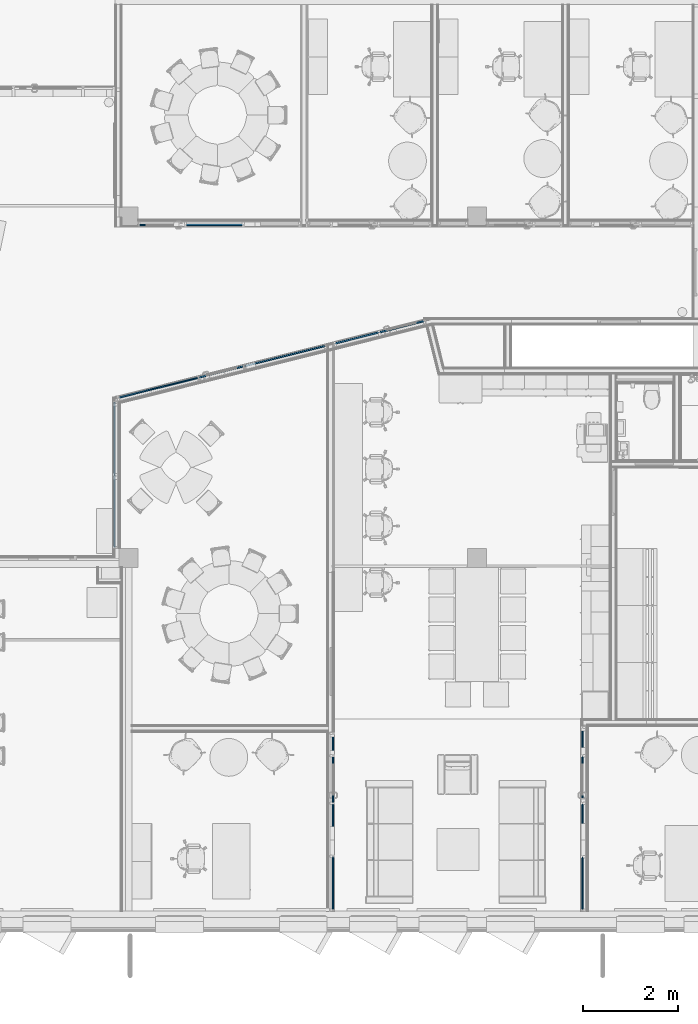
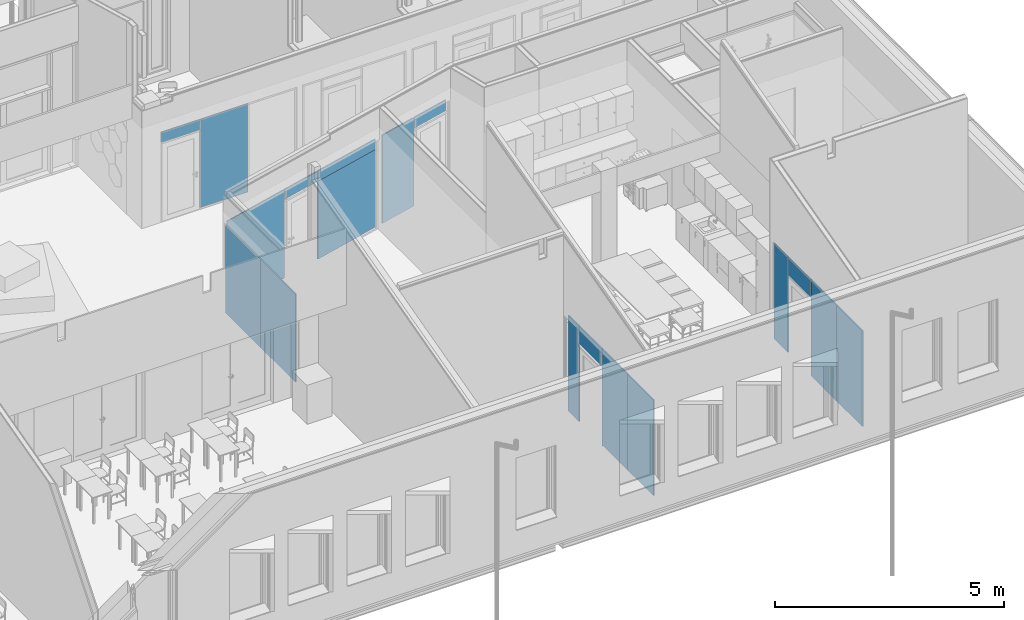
# One storey, part 39 of 153: 18 plates, 6 elements without a shape of their own.
"""IFC2X3 building model written with IfcOpenShell, lengths in millimetres."""

import ifcopenshell
import ifcopenshell.guid

model = None  # the IFC model being written
_history = None  # IfcOwnerHistory: only IFC2X3 demands one
_inside = {}  # id of a spatial element -> (the spatial element, [elements in it])
_under = {}  # id of a project, library or spatial element -> (it, [spatial elements below it])
_declared = {}  # id of a project -> (the project, [libraries it declares])
_typed = {}  # id of a type object -> (the type object, [elements of that type])
_made_of = {}  # id of a material, layer set ... -> (it, [elements and type objects made of it])


def new_model(schema):
    """Start an empty IFC model of exactly this schema.

    Asked for "IFC4X3", IfcOpenShell would pick the latest addendum, in which some entities
    have other attributes; the version numbers below select the first issue.
    IFC2X3 requires an IfcOwnerHistory on every rooted entity: one is made here for all.
    """
    global model, _history
    if schema == "IFC4X3":
        model = ifcopenshell.file(schema_version=(4, 3, 0, 0))
    else:
        model = ifcopenshell.file(schema=schema)
    _inside.clear()
    _under.clear()
    _declared.clear()
    _typed.clear()
    _made_of.clear()
    _history = None
    if model.schema == "IFC2X3":
        org = make("IfcOrganization", Name="unknown")
        user = make(
            "IfcPersonAndOrganization",
            ThePerson=make("IfcPerson", FamilyName="unknown"),
            TheOrganization=org,
        )
        app = make(
            "IfcApplication",
            ApplicationDeveloper=org,
            Version="unknown",
            ApplicationFullName="unknown",
            ApplicationIdentifier="unknown",
        )
        _history = make(
            "IfcOwnerHistory",
            OwningUser=user,
            OwningApplication=app,
            ChangeAction="ADDED",
            CreationDate=0,
        )
    return model


def make(cls, **values):
    """One entity of the class cls with the attributes given. An attribute that is None is left unset."""
    return model.create_entity(
        cls, **{name: value for name, value in values.items() if value is not None}
    )


def entity(cls, *values):
    """Any entity or typed value of the class cls, its attributes in the order of the schema. None: left unset."""
    e = model.create_entity(cls)
    for i, value in enumerate(values):
        if value is not None:
            e[i] = value
    return e


def rooted(cls, **values):
    """An entity with a GlobalId (a new one), such as an element, a storey or a relation."""
    return make(cls, GlobalId=ifcopenshell.guid.new(), OwnerHistory=_history, **values)


def si_unit(unit_type, name, prefix=None):
    """IfcSIUnit, for example si_unit("LENGTHUNIT", "METRE", prefix="MILLI")."""
    return make("IfcSIUnit", UnitType=unit_type, Prefix=prefix, Name=name)


def converted_unit(unit_type, name, factor, base, dimensions=None, offset=None):
    """IfcConversionBasedUnit, such as the inch: factor (a typed value) times the base unit."""
    return make(
        "IfcConversionBasedUnit"
        if offset is None
        else "IfcConversionBasedUnitWithOffset",
        ConversionOffset=offset,
        Dimensions=None
        if dimensions is None
        else entity("IfcDimensionalExponents", *dimensions),
        UnitType=unit_type,
        Name=name,
        ConversionFactor=make(
            "IfcMeasureWithUnit", ValueComponent=factor, UnitComponent=base
        ),
    )


def derived_unit(unit_type, elements):
    """IfcDerivedUnit: a product of units, each with its exponent."""
    return make(
        "IfcDerivedUnit",
        Elements=[
            make("IfcDerivedUnitElement", Unit=unit, Exponent=power)
            for unit, power in elements
        ],
        UnitType=unit_type,
    )


def money_unit(currency):
    """IfcMonetaryUnit."""
    return make("IfcMonetaryUnit", Currency=currency)


def assignment(units):
    """IfcUnitAssignment: the units of a project."""
    return None if units is None else make("IfcUnitAssignment", Units=units)


def point(xyz):
    """IfcCartesianPoint."""
    return None if xyz is None else make("IfcCartesianPoint", Coordinates=xyz)


def direction(xyz):
    """IfcDirection."""
    return None if xyz is None else make("IfcDirection", DirectionRatios=xyz)


def frame(location, z_axis=None, x_axis=None):
    """IfcAxis2Placement3D, a coordinate frame: its origin and axes. An axis left out is left unset."""
    return make(
        "IfcAxis2Placement3D",
        Location=point(location),
        Axis=direction(z_axis),
        RefDirection=direction(x_axis),
    )


def origin_with_axes():
    """The frame at (0, 0, 0) with the z axis (0, 0, 1) and the x axis (1, 0, 0) written out."""
    return frame((0.0, 0.0, 0.0), z_axis=(0.0, 0.0, 1.0), x_axis=(1.0, 0.0, 0.0))


def place(relative_to, where):
    """IfcLocalPlacement: puts the frame where relative to a parent placement (None: the world)."""
    return make(
        "IfcLocalPlacement", PlacementRelTo=relative_to, RelativePlacement=where
    )


def context(
    kind, dimensions, precision=None, world=None, true_north=None, identifier=None
):
    """IfcGeometricRepresentationContext, for example the 3D "Model" context."""
    return make(
        "IfcGeometricRepresentationContext",
        ContextIdentifier=identifier,
        ContextType=kind,
        CoordinateSpaceDimension=dimensions,
        Precision=precision,
        WorldCoordinateSystem=world,
        TrueNorth=true_north,
    )


def subcontext(parent, identifier, kind, view, scale=None):
    """IfcGeometricRepresentationSubContext, for example "Body" below "Model"."""
    return make(
        "IfcGeometricRepresentationSubContext",
        ContextIdentifier=identifier,
        ContextType=kind,
        ParentContext=parent,
        TargetScale=scale,
        TargetView=view,
    )


def project(units=None, contexts=None):
    """IfcProject with its units and contexts."""
    return rooted(
        "IfcProject",
        Name="project",
        RepresentationContexts=contexts,
        UnitsInContext=assignment(units),
    )


def spatial(cls, under=None, at=None, **own):
    """A site, building, storey or space (cls), placed at a placement, below another one or the project."""
    s = rooted(cls, ObjectPlacement=at, **own)
    if under is not None:
        _under.setdefault(under.id(), (under, []))[1].append(s)
    return s


def faces_of(points, faces, orient=None, outer=None):
    """IfcFace entities. A face is a list of loops; a loop is a list of indices into points, from 0.

    orient and outer hold one flag for each loop. By default every Orientation is true, the
    first loop of a face is its IfcFaceOuterBound and the others are IfcFaceBound.
    """
    made = []
    for i, loops in enumerate(faces):
        bounds = []
        for j, loop in enumerate(loops):
            is_outer = j == 0 if outer is None else outer[i][j]
            bounds.append(
                make(
                    "IfcFaceOuterBound" if is_outer else "IfcFaceBound",
                    Bound=make("IfcPolyLoop", Polygon=[points[k] for k in loop]),
                    Orientation=True if orient is None else orient[i][j],
                )
            )
        made.append(make("IfcFace", Bounds=bounds))
    return made


def faceted_brep(points, faces, orient=None, outer=None, voids=None):
    """IfcFacetedBrep: a solid bounded by flat faces; with voids (closed shells), ...WithVoids."""
    shared = [point(p) for p in points]
    hull = make("IfcClosedShell", CfsFaces=faces_of(shared, faces, orient, outer))
    if voids is None:
        return make("IfcFacetedBrep", Outer=hull)
    return make(
        "IfcFacetedBrepWithVoids",
        Outer=hull,
        Voids=[
            make(cls, CfsFaces=faces_of(shared, fs, o, b)) for cls, fs, o, b in voids
        ],
    )


def shape(context_of_items, identifier, shape_type, items):
    """IfcShapeRepresentation: the items that make up one representation, for example the "Body"."""
    return make(
        "IfcShapeRepresentation",
        ContextOfItems=context_of_items,
        RepresentationIdentifier=identifier,
        RepresentationType=shape_type,
        Items=items,
    )


def material(Name=None, Category=None):
    """IfcMaterial."""
    return make("IfcMaterial", Name=Name, Category=Category)


def made_of(thing, what):
    """Note that an element or type object is made of a material, layer set ...; save() writes the relation."""
    if what is not None:
        _made_of.setdefault(what.id(), (what, []))[1].append(thing)
    return thing


def type_object(cls, material=None, **own):
    """A type object (cls), such as IfcWallType, which elements share."""
    return made_of(rooted(cls, **own), material)


def element(
    cls,
    number,
    at=None,
    inside=None,
    cuts=None,
    type_object=None,
    material=None,
    context=None,
    identifier="Body",
    shape_type=None,
    held_by="IfcProductDefinitionShape",
    body=None,
    shapes=None,
    **own,
):
    """One element of the class cls, such as IfcWall. Its Tag is "e" and its number.

    at: its placement. inside: the storey or other place that contains it. cuts: it is an
    opening in that element (IfcRelVoidsElement). A single representation is given by context,
    identifier, shape_type and body (its items); several are given by shapes. held_by: the class
    of the entity that holds the representations. save() writes the other relations.
    """
    e = rooted(cls, Tag="e%d" % number, ObjectPlacement=at, **own)
    if body is not None:
        shapes = [shape(context, identifier, shape_type, body)]
    if shapes is not None:
        e.Representation = make(held_by, Representations=shapes)
    if inside is not None:
        _inside.setdefault(inside.id(), (inside, []))[1].append(e)
    if cuts is not None:
        rooted(
            "IfcRelVoidsElement", RelatingBuildingElement=cuts, RelatedOpeningElement=e
        )
    if type_object is not None:
        _typed.setdefault(type_object.id(), (type_object, []))[1].append(e)
    return made_of(e, material)


def aggregate(whole, parts):
    """IfcRelAggregates: a whole, such as a stair, and the parts it consists of."""
    return rooted("IfcRelAggregates", RelatingObject=whole, RelatedObjects=parts)


def save(model, path):
    """Write the relations noted so far, then the file.

    IfcRelAggregates (storeys below a building ...), IfcRelContainedInSpatialStructure (elements
    in a storey), IfcRelDefinesByType, IfcRelAssociatesMaterial and IfcRelDeclares: one each for
    every whole, place, type object, material and project.
    """
    for whole, parts in _under.values():
        aggregate(whole, parts)
    for where, things in _inside.values():
        rooted(
            "IfcRelContainedInSpatialStructure",
            RelatedElements=things,
            RelatingStructure=where,
        )
    for kind, things in _typed.values():
        rooted("IfcRelDefinesByType", RelatedObjects=things, RelatingType=kind)
    for what, things in _made_of.values():
        rooted("IfcRelAssociatesMaterial", RelatedObjects=things, RelatingMaterial=what)
    for by, libraries in _declared.values():
        rooted("IfcRelDeclares", RelatingContext=by, RelatedDefinitions=libraries)
    model.write(path)


model = new_model("IFC2X3")

# Units and contexts
model_context = context("Model", 3, precision=0.01, world=origin_with_axes(), true_north=direction((0.0, 1.0)))
body_context = subcontext(model_context, "Body", "Model", "MODEL_VIEW")
ifc_project = project(units=[si_unit("LENGTHUNIT", "METRE", prefix="MILLI"), si_unit("AREAUNIT", "SQUARE_METRE"), si_unit("VOLUMEUNIT", "CUBIC_METRE"), converted_unit("PLANEANGLEUNIT", "DEGREE", entity("IfcPlaneAngleMeasure", 0.0174532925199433), si_unit("PLANEANGLEUNIT", "RADIAN"), dimensions=[0, 0, 0, 0, 0, 0, 0]), money_unit("EUR"), converted_unit("TIMEUNIT", "Year", entity("IfcTimeMeasure", 31557600.0), si_unit("TIMEUNIT", "SECOND"), dimensions=[0, 0, 1, 0, 0, 0, 0]), si_unit("MASSUNIT", "GRAM", prefix="KILO"), si_unit("THERMODYNAMICTEMPERATUREUNIT", "DEGREE_CELSIUS"), si_unit("LUMINOUSINTENSITYUNIT", "LUMEN"), si_unit("ENERGYUNIT", "JOULE", prefix="MEGA"), derived_unit("THERMALCONDUCTANCEUNIT", [(si_unit("POWERUNIT", "WATT"), 1), (si_unit("LENGTHUNIT", "METRE"), -1), (si_unit("THERMODYNAMICTEMPERATUREUNIT", "KELVIN"), -1)]), derived_unit("SPECIFICHEATCAPACITYUNIT", [(si_unit("ENERGYUNIT", "JOULE"), 1), (si_unit("MASSUNIT", "GRAM", prefix="KILO"), -1), (si_unit("THERMODYNAMICTEMPERATUREUNIT", "KELVIN"), -1)]), derived_unit("MASSDENSITYUNIT", [(si_unit("MASSUNIT", "GRAM", prefix="KILO"), 1), (si_unit("VOLUMEUNIT", "CUBIC_METRE"), -1)])], contexts=[model_context])

# Site, building, storey
site_placement = place(None, frame((0.0, 0.0, 8650.0), z_axis=(0.0, 0.0, 1.0), x_axis=(1.0, 0.0, 0.0)))
site = spatial("IfcSite", under=ifc_project, at=site_placement, Name="43301:001:0844", CompositionType="ELEMENT")
building_placement = place(site_placement, origin_with_axes())
building = spatial("IfcBuilding", under=site, at=building_placement, Name="Kuressaare Ametikooli tuulikute mehaanikute õppekorpus", CompositionType="ELEMENT")
storey_placement = place(building_placement, frame((0.0, 0.0, 4100.0), z_axis=(0.0, 0.0, 1.0), x_axis=(1.0, 0.0, 0.0)))
storey = spatial("IfcBuildingStorey", under=building, at=storey_placement, Name="2.korrus", CompositionType="ELEMENT", Elevation=4100.0)

# Curtain wall, plates
curtain_wall_type = type_object("IfcCurtainWallType", Name="Curtain Wall Type", PredefinedType="NOTDEFINED")
curtain_wall_1_placement = place(storey_placement, frame((122879.3962682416, 12626.24529387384, 0.0), z_axis=(0.0, 0.0, 1.0), x_axis=(1.0, 0.0, 0.0)))
curtain_wall_1 = element("IfcCurtainWall", 1, at=curtain_wall_1_placement, inside=storey, type_object=curtain_wall_type, Name="PKF-3")
ifc_material = material(Name="Klaas")
plate_type_1 = type_object("IfcPlateType", Name="Main Panel 106 x 175 x 30", PredefinedType="NOTDEFINED")
plate_1_placement = place(curtain_wall_1_placement, frame((0.0, 0.0, 1572.727274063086), z_axis=(0.0, 0.0, 1.0), x_axis=(0.0, -1.0, 0.0)))
plate_1 = element("IfcPlate", 2, at=plate_1_placement, type_object=plate_type_1, material=ifc_material, context=body_context, shape_type="Brep", body=[
    faceted_brep([(-246.6906654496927, -14.99999999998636, 1002.272722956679), (-169.1127710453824, -14.99999999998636, 1002.272722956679), (-169.1127710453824, 15.00000000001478, 1002.272722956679), (-246.6906654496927, 15.00000000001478, 1002.272722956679), (-246.690587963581, -14.99999999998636, 827.2727408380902), (-246.690587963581, -14.99999999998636, -1547.72727108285), (-169.1127710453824, -14.99999999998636, -1547.72727108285), (117.9358872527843, -14.99999999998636, -1547.72727108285), (224.3563596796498, -14.99999999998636, -1547.72727108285), (224.3563984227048, -14.99999999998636, 527.2727438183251), (224.3563984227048, -14.99999999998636, 827.2727408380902), (224.3563984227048, -14.99999999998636, 1002.272722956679), (117.9358872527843, -14.99999999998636, 1002.272722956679), (117.9358872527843, 15.00000000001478, 1002.272722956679), (224.3563984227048, 15.00000000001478, 1002.272722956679), (224.3563984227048, 15.00000000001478, 827.2727408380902), (224.3563984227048, 15.00000000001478, 527.2727438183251), (224.3563596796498, 15.00000000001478, -1547.72727108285), (117.9358872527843, 15.00000000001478, -1547.72727108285), (-169.1127710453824, 15.00000000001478, -1547.72727108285), (-246.690587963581, 15.00000000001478, -1547.72727108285), (-246.690587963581, 15.00000000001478, 827.2727408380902)], [[[0, 1, 2, 3]], [[0, 4, 5, 6, 7, 8, 9, 10, 11, 12, 1]], [[1, 12, 13, 2]], [[3, 2, 13, 14, 15, 16, 17, 18, 19, 20, 21]], [[4, 0, 3, 21]], [[5, 4, 21, 20]], [[6, 5, 20, 19]], [[7, 6, 19, 18]], [[8, 7, 18, 17]], [[9, 8, 17, 16]], [[10, 9, 16, 15]], [[11, 10, 15, 14]], [[12, 11, 14, 13]]]),
])
plate_type_2 = type_object("IfcPlateType", Name="Main Panel 336 x 175 x 30", PredefinedType="NOTDEFINED")
plate_2_placement = place(curtain_wall_1_placement, frame((0.0, -1720.856543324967, 1441.666664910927), z_axis=(0.0, 0.0, 1.0), x_axis=(0.0, -1.0, 0.0)))
plate_2 = element("IfcPlate", 3, at=plate_2_placement, type_object=plate_type_2, material=ifc_material, Name="PKU10,dB", context=body_context, shape_type="Brep", body=[
    faceted_brep([(-486.498398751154, -14.99999999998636, 1133.333332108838), (-2.920668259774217, -14.99999999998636, 1133.333332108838), (-2.920668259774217, 15.00000000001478, 1133.333332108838), (-486.498398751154, 15.00000000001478, 1133.333332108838), (-486.498398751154, -14.99999999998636, 958.3333499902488), (-486.498398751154, -14.99999999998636, 658.3333142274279), (-486.498398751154, -14.99999999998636, -1441.666664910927), (-471.4984434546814, -14.99999999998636, -1441.666664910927), (-471.4984434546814, -14.99999999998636, -1416.666661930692), (-2.920668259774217, -14.99999999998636, -1416.666661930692), (284.1279900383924, -14.99999999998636, -1416.666661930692), (620.0255981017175, -14.99999999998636, -1416.666661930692), (620.0258693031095, -14.99999999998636, 958.3333499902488), (620.0259080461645, -14.99999999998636, 1133.333332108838), (284.1279900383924, -14.99999999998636, 1133.333332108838), (284.1279900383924, 15.00000000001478, 1133.333332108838), (620.0259080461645, 15.00000000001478, 1133.333332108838), (620.0258693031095, 15.00000000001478, 958.3333499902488), (620.0255981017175, 15.00000000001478, -1416.666661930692), (284.1279900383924, 15.00000000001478, -1416.666661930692), (-2.920668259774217, 15.00000000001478, -1416.666661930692), (-471.4984434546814, 15.00000000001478, -1416.666661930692), (-471.4984434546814, 15.00000000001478, -1441.666664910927), (-486.498398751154, 15.00000000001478, -1441.666664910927), (-486.498398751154, 15.00000000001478, 658.3333142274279), (-486.498398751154, 15.00000000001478, 958.3333499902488)], [[[0, 1, 2, 3]], [[0, 4, 5, 6, 7, 8, 9, 10, 11, 12, 13, 14, 1]], [[1, 14, 15, 2]], [[3, 2, 15, 16, 17, 18, 19, 20, 21, 22, 23, 24, 25]], [[4, 0, 3, 25]], [[5, 4, 25, 24]], [[6, 5, 24, 23]], [[7, 6, 23, 22]], [[8, 7, 22, 21]], [[9, 8, 21, 20]], [[10, 9, 20, 19]], [[11, 10, 19, 18]], [[12, 11, 18, 17]], [[13, 12, 17, 16]], [[14, 13, 16, 15]]]),
])
plate_type_3 = type_object("IfcPlateType", Name="Main Panel 990 x 175 x 30", PredefinedType="NOTDEFINED")
plate_3_placement = place(curtain_wall_1_placement, frame((0.0, -729.3572609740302, 2366.666665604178), z_axis=(0.0, 0.0, 1.0), x_axis=(0.0, -1.0, 0.0)))
plate_3 = element("IfcPlate", 4, at=plate_3_placement, type_object=plate_type_3, material=ifc_material, context=body_context, shape_type="Brep", body=[
    faceted_brep([(-495.0008700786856, -14.99999999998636, 208.3333358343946), (495.0008998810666, -14.99999999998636, 208.3333358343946), (495.0008998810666, 15.00000000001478, 208.3333358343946), (-495.0008700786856, 15.00000000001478, 208.3333358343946), (-495.0008700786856, -14.99999999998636, 33.33333852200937), (-495.0008849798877, -14.99999999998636, -261.6666480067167), (495.0008700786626, -14.99999999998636, -261.6666927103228), (495.0008700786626, -14.99999999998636, 33.33333852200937), (495.0008700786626, 15.00000000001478, 33.33333852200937), (495.0008700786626, 15.00000000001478, -261.6666927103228), (-495.0008849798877, 15.00000000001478, -261.6666480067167), (-495.0008700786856, 15.00000000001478, 33.33333852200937)], [[[0, 1, 2, 3]], [[0, 4, 5, 6, 7, 1]], [[1, 7, 8, 2]], [[3, 2, 8, 9, 10, 11]], [[4, 0, 3, 11]], [[5, 4, 11, 10]], [[6, 5, 10, 9]], [[7, 6, 9, 8]]]),
])
plate_type_4 = type_object("IfcPlateType", Name="Main Panel 1127 x 175 x 30", PredefinedType="NOTDEFINED")
plate_4_placement = place(curtain_wall_1_placement, frame((0.0, -2924.144530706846, 1666.666666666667), z_axis=(0.0, 0.0, 1.0), x_axis=(0.0, -1.0, 0.0)))
plate_4 = element("IfcPlate", 5, at=plate_4_placement, type_object=plate_type_4, material=ifc_material, Name="PKU10,dB", context=body_context, shape_type="Brep", body=[
    faceted_brep([(-573.2620870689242, -14.99999999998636, 908.3333303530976), (553.2621988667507, -14.99999999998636, 908.3333303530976), (553.2621988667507, 15.00000000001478, 908.3333303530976), (-573.2620870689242, 15.00000000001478, 908.3333303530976), (-573.2621258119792, -14.99999999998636, 733.3333482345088), (-573.262397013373, -14.99999999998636, -1641.666663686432), (553.2621988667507, -14.99999999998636, -1641.666663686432), (553.2621988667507, -14.99999999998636, 733.3333482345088), (553.2621988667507, 15.00000000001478, 733.3333482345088), (553.2621988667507, 15.00000000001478, -1641.666663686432), (-573.262397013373, 15.00000000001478, -1641.666663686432), (-573.2621258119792, 15.00000000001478, 733.3333482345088)], [[[0, 1, 2, 3]], [[0, 4, 5, 6, 7, 1]], [[1, 7, 8, 2]], [[3, 2, 8, 9, 10, 11]], [[4, 0, 3, 11]], [[5, 4, 11, 10]], [[6, 5, 10, 9]], [[7, 6, 9, 8]]]),
])
aggregate(curtain_wall_1, [plate_1, plate_2, plate_3, plate_4])

curtain_wall_2_placement = place(storey_placement, frame((128142.9907946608, 12695.39546179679, 0.0), z_axis=(0.0, 0.0, 1.0), x_axis=(1.0, 0.0, 0.0)))
curtain_wall_2 = element("IfcCurtainWall", 6, at=curtain_wall_2_placement, inside=storey, type_object=curtain_wall_type, Name="PKF-4")
plate_type_5 = type_object("IfcPlateType", Name="Main Panel 351 x 15 x 30", PredefinedType="NOTDEFINED")
plate_5_placement = place(curtain_wall_2_placement, frame((0.0, -1830.360836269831, 1724.615386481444), z_axis=(0.0, 0.0, 1.0), x_axis=(0.0, -1.0, 0.0)))
plate_5 = element("IfcPlate", 7, at=plate_5_placement, type_object=plate_type_5, material=ifc_material, Name="PKU10,dB", context=body_context, shape_type="Brep", body=[
    faceted_brep([(-531.0398533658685, 15.00000000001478, 850.3846105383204), (-531.0398533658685, -14.99999999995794, 850.3846105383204), (-106.330259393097, -14.99999999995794, 850.3846105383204), (-106.330259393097, 15.00000000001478, 850.3846105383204), (-531.0398533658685, 15.00000000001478, 835.3846552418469), (-531.0398533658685, -14.99999999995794, 835.3846552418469), (-526.0398682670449, -14.99999999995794, 835.3846552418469), (-526.0398682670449, -14.99999999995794, 675.3846284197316), (-526.0399070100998, -14.99999999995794, 375.3845926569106), (-526.0399457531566, -14.99999999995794, -1699.615383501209), (-106.330259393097, -14.99999999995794, -1699.615383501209), (243.7738849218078, -14.99999999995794, -1699.615383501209), (590.0780328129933, -14.99999999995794, -1699.615383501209), (590.0780328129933, -14.99999999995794, 675.3846284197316), (590.0780715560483, -14.99999999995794, 835.3846552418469), (595.0780566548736, -14.99999999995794, 835.384616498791), (595.0780566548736, -14.99999999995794, 850.3846105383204), (243.7738849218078, -14.99999999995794, 850.3846105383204), (243.7738849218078, 15.00000000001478, 850.3846105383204), (595.0780566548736, 15.00000000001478, 850.3846105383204), (595.0780566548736, 15.00000000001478, 835.384616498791), (590.0780715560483, 15.00000000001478, 835.3846552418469), (590.0780328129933, 15.00000000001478, 675.3846284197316), (590.0780328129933, 15.00000000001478, -1699.615383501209), (243.7738849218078, 15.00000000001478, -1699.615383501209), (-106.330259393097, 15.00000000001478, -1699.615383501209), (-526.0399457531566, 15.00000000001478, -1699.615383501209), (-526.0399070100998, 15.00000000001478, 375.3845926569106), (-526.0398682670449, 15.00000000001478, 675.3846284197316), (-526.0398682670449, 15.00000000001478, 835.3846552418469)], [[[0, 1, 2, 3]], [[4, 5, 1, 0]], [[1, 5, 6, 7, 8, 9, 10, 11, 12, 13, 14, 15, 16, 17, 2]], [[3, 2, 17, 18]], [[0, 3, 18, 19, 20, 21, 22, 23, 24, 25, 26, 27, 28, 29, 4]], [[29, 6, 5, 4]], [[28, 7, 6, 29]], [[27, 8, 7, 28]], [[26, 9, 8, 27]], [[25, 10, 9, 26]], [[24, 11, 10, 25]], [[23, 12, 11, 24]], [[22, 13, 12, 23]], [[21, 14, 13, 22]], [[20, 15, 14, 21]], [[19, 16, 15, 20]], [[18, 17, 16, 19]]]),
])
plate_type_6 = type_object("IfcPlateType", Name="Main Panel 168 x 175 x 30", PredefinedType="NOTDEFINED")
plate_6_placement = place(curtain_wall_2_placement, frame((0.0, 0.0, 1572.727270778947), z_axis=(0.0, 0.0, 1.0), x_axis=(0.0, -1.0, 0.0)))
plate_6 = element("IfcPlate", 8, at=plate_6_placement, type_object=plate_type_6, material=ifc_material, Name="PKU10,dB", context=body_context, shape_type="Brep", body=[
    faceted_brep([(-303.6513987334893, 15.00000000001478, 1002.272726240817), (-303.6513987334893, -14.99999999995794, 1002.272726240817), (-226.0735430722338, -14.99999999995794, 1002.272726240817), (-226.0735430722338, 15.00000000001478, 1002.272726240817), (-303.6513212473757, 15.00000000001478, 827.2727441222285), (-303.6513212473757, -14.99999999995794, 827.2727441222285), (-303.6513212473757, -14.99999999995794, -1547.727267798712), (-226.0735430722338, -14.99999999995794, -1547.727267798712), (124.0306012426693, -14.99999999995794, -1547.727267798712), (292.5100107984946, -14.99999999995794, -1547.727267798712), (292.5100107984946, -14.99999999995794, 527.2727083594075), (292.5099720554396, -14.99999999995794, 827.2727441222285), (292.5099720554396, -14.99999999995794, 1002.272726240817), (124.0306012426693, -14.99999999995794, 1002.272726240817), (124.0306012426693, 15.00000000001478, 1002.272726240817), (292.5099720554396, 15.00000000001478, 1002.272726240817), (292.5099720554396, 15.00000000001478, 827.2727441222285), (292.5100107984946, 15.00000000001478, 527.2727083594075), (292.5100107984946, 15.00000000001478, -1547.727267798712), (124.0306012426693, 15.00000000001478, -1547.727267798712), (-226.0735430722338, 15.00000000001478, -1547.727267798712), (-303.6513212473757, 15.00000000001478, -1547.727267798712)], [[[0, 1, 2, 3]], [[4, 5, 1, 0]], [[1, 5, 6, 7, 8, 9, 10, 11, 12, 13, 2]], [[3, 2, 13, 14]], [[0, 3, 14, 15, 16, 17, 18, 19, 20, 21, 4]], [[21, 6, 5, 4]], [[20, 7, 6, 21]], [[19, 8, 7, 20]], [[18, 9, 8, 19]], [[17, 10, 9, 18]], [[16, 11, 10, 17]], [[15, 12, 11, 16]], [[14, 13, 12, 15]]]),
])
plate_type_7 = type_object("IfcPlateType", Name="Main Panel 997 x 15 x 30", PredefinedType="NOTDEFINED")
plate_7_placement = place(curtain_wall_2_placement, frame((0.0, -798.6418461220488, 2357.499994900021), z_axis=(0.0, 0.0, 1.0), x_axis=(0.0, -1.0, 0.0)))
plate_7 = element("IfcPlate", 9, at=plate_7_placement, type_object=plate_type_7, material=ifc_material, Name="PKU10,dB", context=body_context, shape_type="Brep", body=[
    faceted_brep([(-496.1318562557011, 15.00000000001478, 217.5000025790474), (-496.1318562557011, -14.99999999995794, 217.5000025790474), (500.6791338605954, -14.99999999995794, 217.5000025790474), (500.6791338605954, 15.00000000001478, 217.5000025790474), (-496.1318711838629, 15.00000000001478, 42.50000268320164), (-496.1318711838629, -14.99999999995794, 42.50000268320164), (-496.1318562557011, -14.99999999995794, -252.5000227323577), (495.67909547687, -14.99999999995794, -252.5000227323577), (495.6791104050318, -14.99999999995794, 42.50000268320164), (495.6791253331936, -14.99999999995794, 202.5000367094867), (500.6791338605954, -14.99999999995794, 202.5000217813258), (500.6791338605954, 15.00000000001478, 202.5000217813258), (495.6791253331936, 15.00000000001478, 202.5000367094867), (495.6791104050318, 15.00000000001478, 42.50000268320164), (495.67909547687, 15.00000000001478, -252.5000227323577), (-496.1318562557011, 15.00000000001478, -252.5000227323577)], [[[0, 1, 2, 3]], [[4, 5, 1, 0]], [[1, 5, 6, 7, 8, 9, 10, 2]], [[3, 2, 10, 11]], [[0, 3, 11, 12, 13, 14, 15, 4]], [[15, 6, 5, 4]], [[14, 7, 6, 15]], [[13, 8, 7, 14]], [[12, 9, 8, 13]], [[11, 10, 9, 12]]]),
])
plate_type_8 = type_object("IfcPlateType", Name="Main Panel 1121 x 175 x 30", PredefinedType="NOTDEFINED")
plate_8_placement = place(curtain_wall_2_placement, frame((0.0, -2916.632313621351, 1794.285717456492), z_axis=(0.0, 0.0, 1.0), x_axis=(0.0, -1.0, 0.0)))
plate_8 = element("IfcPlate", 10, at=plate_8_placement, type_object=plate_type_8, material=ifc_material, Name="PKU10,dB", context=body_context, shape_type="Brep", body=[
    faceted_brep([(-491.1934185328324, 15.00000000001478, 780.7142795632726), (-491.1934185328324, -14.99999999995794, 780.7142795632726), (629.9245451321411, -14.99999999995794, 780.7142795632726), (629.9245451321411, 15.00000000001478, 780.7142795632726), (-491.1934185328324, 15.00000000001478, 765.7142855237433), (-491.1934185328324, -14.99999999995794, 765.7142855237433), (-486.193433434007, -14.99999999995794, 765.7142855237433), (-486.193433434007, -14.99999999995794, 605.7142974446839), (-486.193433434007, -14.99999999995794, -1769.285714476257), (629.9245838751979, -14.99999999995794, -1769.285714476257), (629.9245838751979, -14.99999999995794, 605.7142974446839), (629.9245838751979, 15.00000000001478, 605.7142974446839), (629.9245838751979, 15.00000000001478, -1769.285714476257), (-486.193433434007, 15.00000000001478, -1769.285714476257), (-486.193433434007, 15.00000000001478, 605.7142974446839), (-486.193433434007, 15.00000000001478, 765.7142855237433)], [[[0, 1, 2, 3]], [[4, 5, 1, 0]], [[1, 5, 6, 7, 8, 9, 10, 2]], [[3, 2, 10, 11]], [[0, 3, 11, 12, 13, 14, 15, 4]], [[15, 6, 5, 4]], [[14, 7, 6, 15]], [[13, 8, 7, 14]], [[12, 9, 8, 13]], [[11, 10, 9, 12]]]),
])
aggregate(curtain_wall_2, [plate_5, plate_6, plate_7, plate_8])

curtain_wall_3_placement = place(storey_placement, frame((118271.9466433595, 17776.77433456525, 0.0), z_axis=(0.0, 0.0, 1.0), x_axis=(1.0, 0.0, 0.0)))
curtain_wall_3 = element("IfcCurtainWall", 11, at=curtain_wall_3_placement, inside=storey, type_object=curtain_wall_type, Name="PKF-2.1")
plate_type_9 = type_object("IfcPlateType", Name="Main Panel 94 x 2350 x 30", PredefinedType="NOTDEFINED")
plate_9_placement = place(curtain_wall_3_placement, frame((0.0, 0.0, 1200.000024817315), z_axis=(0.0, 0.0, 1.0), x_axis=(0.0, 1.0, 0.0)))
plate_9 = element("IfcPlate", 12, at=plate_9_placement, type_object=plate_type_9, material=ifc_material, context=body_context, shape_type="Brep", body=[
    faceted_brep([(-977.7274064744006, -14.99999999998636, 1175.000024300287), (452.0193507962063, -14.99999999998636, 1175.000024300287), (452.0193507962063, 15.00000000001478, 1175.000024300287), (-977.7274064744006, 15.00000000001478, 1175.000024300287), (-977.7274064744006, -14.99999999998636, -1175.000024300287), (452.0193507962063, -14.99999999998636, -1175.000024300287), (545.7080373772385, -14.99999999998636, -1175.000024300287), (545.7080373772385, -14.99999999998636, 1175.000024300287), (545.7080373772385, 15.00000000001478, 1175.000024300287), (545.7080373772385, 15.00000000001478, -1175.000024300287), (452.0193507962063, 15.00000000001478, -1175.000024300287), (-977.7274064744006, 15.00000000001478, -1175.000024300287)], [[[0, 1, 2, 3]], [[0, 4, 5, 6, 7, 1]], [[1, 7, 8, 2]], [[3, 2, 8, 9, 10, 11]], [[4, 0, 3, 11]], [[5, 4, 11, 10]], [[6, 5, 10, 9]], [[7, 6, 9, 8]]]),
])
plate_type_10 = type_object("IfcPlateType", Name="Main Panel 74 x 2350 x 30", PredefinedType="NOTDEFINED")
plate_10_placement = place(curtain_wall_3_placement, frame((0.0, 1553.435471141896, 1200.000024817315), z_axis=(0.0, 0.0, 1.0), x_axis=(0.0, 1.0, 0.0)))
plate_10 = element("IfcPlate", 13, at=plate_10_placement, type_object=plate_type_10, material=ifc_material, context=body_context, shape_type="Brep", body=[
    faceted_brep([(-997.7274396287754, -14.99999999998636, 1175.000024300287), (452.0193895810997, -14.99999999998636, 1175.000024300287), (452.0193895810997, 15.00000000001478, 1175.000024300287), (-997.7274396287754, 15.00000000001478, 1175.000024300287), (-997.7274396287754, -14.99999999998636, -1175.000024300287), (452.0193895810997, -14.99999999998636, -1175.000024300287), (525.708039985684, -14.99999999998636, -1175.000024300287), (525.708039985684, -14.99999999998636, 1175.000024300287), (525.708039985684, 15.00000000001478, 1175.000024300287), (525.708039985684, 15.00000000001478, -1175.000024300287), (452.0193895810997, 15.00000000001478, -1175.000024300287), (-997.7274396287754, 15.00000000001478, -1175.000024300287)], [[[0, 1, 2, 3]], [[0, 4, 5, 6, 7, 1]], [[1, 7, 8, 2]], [[3, 2, 8, 9, 10, 11]], [[4, 0, 3, 11]], [[5, 4, 11, 10]], [[6, 5, 10, 9]], [[7, 6, 9, 8]]]),
])
aggregate(curtain_wall_3, [plate_9, plate_10])

curtain_wall_4_placement = place(storey_placement, frame((120547.3158940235, 20502.05468019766, 0.0), z_axis=(0.0, 0.0, 1.0), x_axis=(1.0, 0.0, 0.0)))
curtain_wall_4 = element("IfcCurtainWall", 14, at=curtain_wall_4_placement, inside=storey, type_object=curtain_wall_type, Name="PKF-2.2")
plate_type_11 = type_object("IfcPlateType", Name="Main Panel 438 x 270 x 30", PredefinedType="NOTDEFINED")
plate_11_placement = place(curtain_wall_4_placement, frame((0.0, 0.0, 2250.000042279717), z_axis=(0.0, 0.0, 1.0), x_axis=(0.9699839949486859, 0.2431687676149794, 0.0)))
plate_11 = element("IfcPlate", 15, at=plate_11_placement, type_object=plate_type_11, material=ifc_material, context=body_context, shape_type="Brep", body=[
    faceted_brep([(-513.7591014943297, -14.99999999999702, 125.0000074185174), (37.82039432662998, -15.00000000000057, 125.0000074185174), (37.82039432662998, 15.00000000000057, 125.0000074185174), (-513.7591014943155, 15.00000000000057, 125.0000074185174), (-513.7591014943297, -14.99999999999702, -145.0000148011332), (37.82039432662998, -15.00000000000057, -144.9999999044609), (475.9387016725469, -14.99999999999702, -145.0000148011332), (475.9387016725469, -14.99999999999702, 125.0000074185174), (475.9387016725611, 15.00000000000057, 125.0000074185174), (475.9387016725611, 15.00000000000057, -145.0000148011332), (37.82039432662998, 15.00000000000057, -144.9999999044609), (-513.7591014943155, 15.00000000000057, -145.0000148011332)], [[[0, 1, 2, 3]], [[0, 4, 5, 6, 7, 1]], [[1, 7, 8, 2]], [[3, 2, 8, 9, 10, 11]], [[4, 0, 3, 11]], [[5, 4, 11, 10]], [[6, 5, 10, 9]], [[7, 6, 9, 8]]]),
])
plate_type_12 = type_object("IfcPlateType", Name="Main Panel 1517 x 2075 x 30", PredefinedType="NOTDEFINED")
plate_12_placement = place(curtain_wall_4_placement, frame((1025.432458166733, 257.0693417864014, 1200.000019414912), z_axis=(0.0, 0.0, 1.0), x_axis=(0.9699839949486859, 0.2431687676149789, 0.0)))
plate_12 = element("IfcPlate", 16, at=plate_12_placement, type_object=plate_type_12, material=ifc_material, Name="PKU10,dB", context=body_context, shape_type="Brep", body=[
    faceted_brep([(-556.2267854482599, -14.99999999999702, 900.0000145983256), (-344.0415976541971, -15.00000000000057, 900.0000145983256), (-344.0415976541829, 15.00000000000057, 900.0000145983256), (-556.2267854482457, 15.00000000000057, 900.0000145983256), (-556.2267854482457, -15.00000000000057, 895.0000100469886), (-571.2256099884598, -15.00000000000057, 895.0000100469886), (-571.2256099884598, -15.00000000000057, -1175.000027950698), (-344.0415976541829, -15.00000000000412, -1175.000027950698), (1173.380629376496, -15.00000000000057, -1175.000027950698), (1173.380629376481, -14.99999999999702, 900.0000145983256), (1173.380629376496, 14.99999999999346, 900.0000145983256), (1173.380629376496, 14.99999999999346, -1175.000027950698), (-344.0415976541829, 15.00000000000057, -1175.000027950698), (-571.2256099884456, 14.99999999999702, -1175.000027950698), (-571.2256099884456, 14.99999999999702, 895.0000100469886), (-556.2267854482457, 15.00000000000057, 895.0000100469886)], [[[0, 1, 2, 3]], [[0, 4, 5, 6, 7, 8, 9, 1]], [[1, 9, 10, 2]], [[3, 2, 10, 11, 12, 13, 14, 15]], [[4, 0, 3, 15]], [[5, 4, 15, 14]], [[6, 5, 14, 13]], [[7, 6, 13, 12]], [[8, 7, 12, 11]], [[9, 8, 11, 10]]]),
])
plate_type_13 = type_object("IfcPlateType", Name="Main Panel 1517 x 275 x 30", PredefinedType="NOTDEFINED")
plate_13_placement = place(curtain_wall_4_placement, frame((1025.432458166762, 257.0693417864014, 2228.57146926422), z_axis=(0.0, 0.0, 1.0), x_axis=(0.9699839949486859, 0.2431687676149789, 0.0)))
plate_13 = element("IfcPlate", 17, at=plate_13_placement, type_object=plate_type_13, material=ifc_material, context=body_context, shape_type="Brep", body=[
    faceted_brep([(-571.225607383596, -14.99999999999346, 146.4285899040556), (-344.0416168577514, -14.99999999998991, 146.4285899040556), (-344.0416168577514, 15.00000000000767, 146.4285899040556), (-571.225607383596, 15.00000000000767, 146.4285899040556), (-571.225607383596, -14.99999999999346, -123.571430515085), (-556.2267829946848, -14.99999999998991, -123.571430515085), (-556.2267829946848, -14.99999999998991, -128.5714353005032), (-344.0416168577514, -14.99999999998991, -128.5714353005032), (1173.380623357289, -14.99999999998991, -128.5714353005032), (1173.380623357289, -14.99999999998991, 146.4285899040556), (1173.380623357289, 15.00000000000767, 146.4285899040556), (1173.380623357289, 15.00000000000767, -128.5714353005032), (-344.0416168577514, 15.00000000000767, -128.5714353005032), (-556.2267829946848, 15.00000000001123, -128.5714353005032), (-556.2267829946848, 15.00000000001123, -123.571430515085), (-571.225607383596, 15.00000000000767, -123.571430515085)], [[[0, 1, 2, 3]], [[0, 4, 5, 6, 7, 8, 9, 1]], [[1, 9, 10, 2]], [[3, 2, 10, 11, 12, 13, 14, 15]], [[4, 0, 3, 15]], [[5, 4, 15, 14]], [[6, 5, 14, 13]], [[7, 6, 13, 12]], [[8, 7, 12, 11]], [[9, 8, 11, 10]]]),
])
plate_type_14 = type_object("IfcPlateType", Name="Main Panel 1038 x 275 x 30", PredefinedType="NOTDEFINED")
plate_14_placement = place(curtain_wall_4_placement, frame((-1481.458683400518, -371.3921922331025, 1300.000025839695), z_axis=(0.0, 0.0, 1.0), x_axis=(0.9699839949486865, 0.2431687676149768, 0.0)))
plate_14 = element("IfcPlate", 18, at=plate_14_placement, type_object=plate_type_14, material=ifc_material, context=body_context, shape_type="Brep", body=[
    faceted_brep([(-742.7575239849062, -15.00000000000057, 1075.000023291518), (-710.1797034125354, -15.00000000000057, 1075.000023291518), (-710.1797034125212, 14.99999999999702, 1075.000023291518), (-742.757523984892, 14.99999999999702, 1075.000023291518), (-742.7575239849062, -15.00000000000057, -1275.000025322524), (-710.1797034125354, -15.00000000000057, -1275.000025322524), (-34.87742207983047, -15.00000000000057, -1275.000025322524), (1003.543098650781, -15.00000000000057, -1275.000025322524), (1003.543098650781, -15.00000000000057, 800.0000176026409), (1003.543098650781, -15.00000000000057, 1075.000023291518), (-34.87742207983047, -15.00000000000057, 1075.000023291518), (-34.87742207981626, 14.99999999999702, 1075.000023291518), (1003.543098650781, 15.00000000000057, 1075.000023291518), (1003.543098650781, 15.00000000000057, 800.0000176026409), (1003.543098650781, 15.00000000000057, -1275.000025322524), (-34.87742207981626, 14.99999999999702, -1275.000025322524), (-710.1797034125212, 14.99999999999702, -1275.000025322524), (-742.757523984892, 14.99999999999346, -1275.000025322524)], [[[0, 1, 2, 3]], [[0, 4, 5, 6, 7, 8, 9, 10, 1]], [[1, 10, 11, 2]], [[3, 2, 11, 12, 13, 14, 15, 16, 17]], [[4, 0, 3, 17]], [[5, 4, 17, 16]], [[6, 5, 16, 15]], [[7, 6, 15, 14]], [[8, 7, 14, 13]], [[9, 8, 13, 12]], [[10, 9, 12, 11]]]),
])
aggregate(curtain_wall_4, [plate_11, plate_12, plate_13, plate_14])

curtain_wall_5_placement = place(storey_placement, frame((123471.3194861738, 21235.04693506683, 4.768376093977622e-05), z_axis=(0.0, 0.0, 1.0), x_axis=(1.0, 0.0, 0.0)))
curtain_wall_5 = element("IfcCurtainWall", 19, at=curtain_wall_5_placement, inside=storey, type_object=curtain_wall_type, Name="PKF-2.3")
plate_type_15 = type_object("IfcPlateType", Name="Main Panel 956 x 295 x 30", PredefinedType="NOTDEFINED")
plate_15_placement = place(curtain_wall_5_placement, frame((0.0, 0.0, 1375.999974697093), z_axis=(0.0, 0.0, 1.0), x_axis=(0.9699953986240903, 0.2431232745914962, 0.0)))
plate_15 = element("IfcPlate", 20, at=plate_15_placement, type_object=plate_type_15, material=ifc_material, context=body_context, shape_type="Brep", body=[
    faceted_brep([(-566.735071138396, -15.00000000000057, 999.0000248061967), (389.4900390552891, -15.00000000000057, 999.0000248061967), (389.4900390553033, 15.00000000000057, 999.0000248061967), (-566.735071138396, 15.00000000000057, 999.0000248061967), (-566.735071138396, -15.00000000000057, -1351.000021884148), (389.4900390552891, -15.00000000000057, -1351.000021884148), (389.4900390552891, -15.00000000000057, 703.9999831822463), (389.4900390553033, 15.00000000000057, 703.9999831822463), (389.4900390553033, 15.00000000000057, -1351.000021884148), (-566.735071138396, 15.00000000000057, -1351.000021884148)], [[[0, 1, 2, 3]], [[0, 4, 5, 6, 1]], [[1, 6, 7, 2]], [[3, 2, 7, 8, 9]], [[4, 0, 3, 9]], [[5, 4, 9, 8]], [[6, 5, 8, 7]]]),
])
plate_type_16 = type_object("IfcPlateType", Name="Main Panel 613 x 290 x 30", PredefinedType="NOTDEFINED")
plate_16_placement = place(curtain_wall_5_placement, frame((823.0175913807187, 206.2842072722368, 2239.999984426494), z_axis=(0.0, 0.0, 1.0), x_axis=(0.9699953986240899, 0.2431232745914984, 0.0)))
plate_16 = element("IfcPlate", 21, at=plate_16_placement, type_object=plate_type_16, material=ifc_material, context=body_context, shape_type="Brep", body=[
    faceted_brep([(-448.9857297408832, -14.99999999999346, 135.0000094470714), (-92.02848183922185, -14.99999999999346, 135.0000094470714), (-92.02848183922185, 15.00000000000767, 135.0000094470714), (-448.9857297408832, 15.00000000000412, 135.0000094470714), (-448.9857297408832, -14.99999999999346, -155.0000177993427), (-92.02848183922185, -14.99999999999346, -155.0000177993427), (521.014211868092, -14.99999999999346, -155.0000177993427), (521.014211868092, -14.99999999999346, 135.0000094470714), (521.014211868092, 15.00000000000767, 135.0000094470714), (521.014211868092, 15.00000000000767, -155.0000177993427), (-92.02848183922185, 15.00000000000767, -155.0000177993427), (-448.9857297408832, 15.00000000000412, -155.0000177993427)], [[[0, 1, 2, 3]], [[0, 4, 5, 6, 7, 1]], [[1, 7, 8, 2]], [[3, 2, 8, 9, 10, 11]], [[4, 0, 3, 11]], [[5, 4, 11, 10]], [[6, 5, 10, 9]], [[7, 6, 9, 8]]]),
])
aggregate(curtain_wall_5, [plate_15, plate_16])

curtain_wall_6_placement = place(storey_placement, frame((119422.8886145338, 23599.06892395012, 7.49398259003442e-05), z_axis=(0.0, 0.0, 1.0), x_axis=(1.0, 0.0, 0.0)))
curtain_wall_6 = element("IfcCurtainWall", 22, at=curtain_wall_6_placement, inside=storey, type_object=curtain_wall_type, Name="PKF-1.1")
plate_type_17 = type_object("IfcPlateType", Name="Main Panel 728 x 270 x 30", PredefinedType="NOTDEFINED")
plate_17_placement = place(curtain_wall_6_placement, frame((0.0, 0.0, 2249.999947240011), z_axis=(0.0, 0.0, 1.0), x_axis=(-1.0, 0.0, 0.0)))
plate_17 = element("IfcPlate", 23, at=plate_17_placement, type_object=plate_type_17, material=ifc_material, context=body_context, shape_type="Brep", body=[
    faceted_brep([(-340.0579609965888, -15.00000000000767, 125.0000191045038), (-212.222490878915, -15.00000000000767, 125.0000191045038), (-212.222490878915, 14.99999999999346, 125.0000191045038), (-340.0579609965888, 14.99999999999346, 125.0000191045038), (-340.0579609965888, -15.00000000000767, -145.0000255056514), (-212.222490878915, -15.00000000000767, -145.0000255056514), (-97.66159875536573, -15.00000000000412, -145.0000255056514), (629.9420386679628, -15.00000000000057, -145.0000255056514), (629.9420386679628, -15.00000000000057, 125.0000191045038), (-97.66159875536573, -15.00000000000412, 125.0000191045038), (-97.66159875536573, 14.99999999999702, 125.0000191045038), (629.9420386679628, 15.00000000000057, 125.0000191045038), (629.9420386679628, 15.00000000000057, -145.0000255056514), (-97.66159875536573, 14.99999999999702, -145.0000255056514), (-212.222490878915, 14.99999999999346, -145.0000255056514), (-340.0579609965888, 14.99999999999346, -145.0000255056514)], [[[0, 1, 2, 3]], [[0, 4, 5, 6, 7, 8, 9, 1]], [[1, 9, 10, 2]], [[3, 2, 10, 11, 12, 13, 14, 15]], [[4, 0, 3, 15]], [[5, 4, 15, 14]], [[6, 5, 14, 13]], [[7, 6, 13, 12]], [[8, 7, 12, 11]], [[9, 8, 11, 10]]]),
])
plate_type_18 = type_object("IfcPlateType", Name="Main Panel 1205 x 275 x 30", PredefinedType="NOTDEFINED")
plate_18_placement = place(curtain_wall_6_placement, frame((830.8823179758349, 0.0, 1379.99994346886), z_axis=(0.0, 0.0, 1.0), x_axis=(-1.0, 0.0, 0.0)))
plate_18 = element("IfcPlate", 24, at=plate_18_placement, type_object=plate_type_18, material=ifc_material, context=body_context, shape_type="Brep", body=[
    faceted_brep([(-723.7365353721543, -15.00000000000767, 995.0000287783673), (480.8243568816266, -15.00000000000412, 995.0000287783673), (480.8243568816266, 14.99999999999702, 995.0000287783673), (-723.7365353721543, 14.99999999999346, 995.0000287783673), (-723.7365353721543, -15.00000000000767, -1355.000017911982), (480.8243568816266, -15.00000000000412, -1355.000017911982), (480.8243568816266, -15.00000000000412, 719.9999875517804), (480.8243568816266, 14.99999999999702, 719.9999875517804), (480.8243568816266, 14.99999999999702, -1355.000017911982), (-723.7365353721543, 14.99999999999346, -1355.000017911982)], [[[0, 1, 2, 3]], [[0, 4, 5, 6, 1]], [[1, 6, 7, 2]], [[3, 2, 7, 8, 9]], [[4, 0, 3, 9]], [[5, 4, 9, 8]], [[6, 5, 8, 7]]]),
])
aggregate(curtain_wall_6, [plate_17, plate_18])

save(model, "model.ifc")
